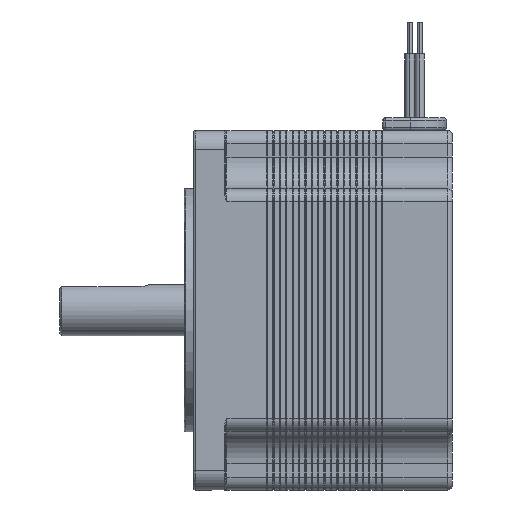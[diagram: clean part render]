
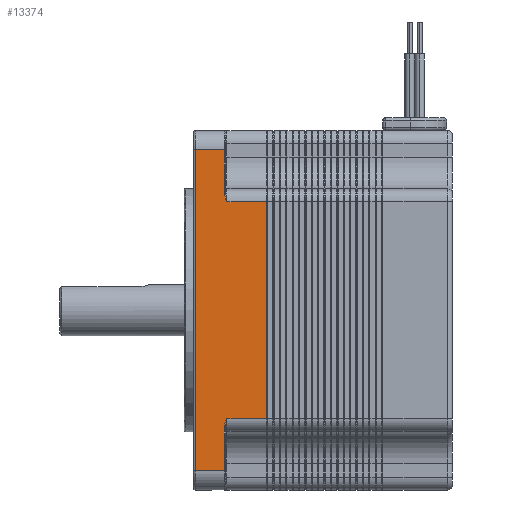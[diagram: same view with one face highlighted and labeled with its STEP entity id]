
A CAD part, left-side view. The second image highlights one B-rep face of the part: STEP entity #13374.
In plain terms, the highlighted planar face has unit normal (-1, 0, 0).
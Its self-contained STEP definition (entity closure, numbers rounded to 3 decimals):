
#496 = ORIENTED_EDGE ( 'NONE', *, *, #59170, .T. ) ;
#511 = CARTESIAN_POINT ( 'NONE',  ( -28.15, 35.7, 18.265 ) ) ;
#855 = FACE_OUTER_BOUND ( 'NONE', #26502, .T. ) ;
#2117 = ORIENTED_EDGE ( 'NONE', *, *, #24409, .T. ) ;
#2469 = CARTESIAN_POINT ( 'NONE',  ( -28.15, 35.7, -18.265 ) ) ;
#2835 = CARTESIAN_POINT ( 'NONE',  ( -28.15, 35.3, -17. ) ) ;
#2861 = VERTEX_POINT ( 'NONE', #67445 ) ;
#3851 = LINE ( 'NONE', #21652, #48586 ) ;
#3900 = CARTESIAN_POINT ( 'NONE',  ( -28.15, 35.395, -17.201 ) ) ;
#4259 = ORIENTED_EDGE ( 'NONE', *, *, #12267, .F. ) ;
#4748 = VERTEX_POINT ( 'NONE', #11617 ) ;
#6073 = VERTEX_POINT ( 'NONE', #62952 ) ;
#7288 = VECTOR ( 'NONE', #61969, 1000. ) ;
#9827 = CARTESIAN_POINT ( 'NONE',  ( -28.15, 35.7, -25.15 ) ) ;
#10031 = ORIENTED_EDGE ( 'NONE', *, *, #18332, .T. ) ;
#11617 = CARTESIAN_POINT ( 'NONE',  ( -28.15, 29.1, -17. ) ) ;
#12267 = EDGE_CURVE ( 'NONE', #24096, #16362, #69811, .T. ) ;
#12530 = ORIENTED_EDGE ( 'NONE', *, *, #41797, .T. ) ;
#12716 = VECTOR ( 'NONE', #13269, 1000. ) ;
#13269 = DIRECTION ( 'NONE',  ( 0., 1., 0. ) ) ;
#13374 = ADVANCED_FACE ( 'NONE', ( #855 ), #67429, .F. ) ;
#14471 = CARTESIAN_POINT ( 'NONE',  ( -28.15, 35.491, -17.403 ) ) ;
#15427 = CARTESIAN_POINT ( 'NONE',  ( -28.15, 35.5, -25.15 ) ) ;
#15708 = B_SPLINE_CURVE_WITH_KNOTS ( 'NONE', 3,
 ( #2469, #44215, #16432, #14471, #3900, #2835 ),
 .UNSPECIFIED., .F., .F.,
 ( 4, 2, 4 ),
 ( 0., 0.001, 0.001 ),
 .UNSPECIFIED. ) ;
#16362 = VERTEX_POINT ( 'NONE', #55471 ) ;
#16432 = CARTESIAN_POINT ( 'NONE',  ( -28.15, 35.642, -17.823 ) ) ;
#17676 = LINE ( 'NONE', #18060, #7288 ) ;
#18060 = CARTESIAN_POINT ( 'NONE',  ( -28.15, 40.5, -17. ) ) ;
#18248 = VERTEX_POINT ( 'NONE', #72026 ) ;
#18332 = EDGE_CURVE ( 'NONE', #57854, #21169, #69428, .T. ) ;
#18683 = CARTESIAN_POINT ( 'NONE',  ( -28.15, 35.7, 25.15 ) ) ;
#19141 = B_SPLINE_CURVE_WITH_KNOTS ( 'NONE', 3,
 ( #44727, #66696, #45442, #33793, #61569, #511 ),
 .UNSPECIFIED., .F., .F.,
 ( 4, 2, 4 ),
 ( 0., 0.001, 0.001 ),
 .UNSPECIFIED. ) ;
#19658 = CARTESIAN_POINT ( 'NONE',  ( -28.15, 40.5, 17. ) ) ;
#21169 = VERTEX_POINT ( 'NONE', #28056 ) ;
#21652 = CARTESIAN_POINT ( 'NONE',  ( -28.15, 29.1, -17. ) ) ;
#22713 = LINE ( 'NONE', #62617, #12716 ) ;
#23000 = CARTESIAN_POINT ( 'NONE',  ( -28.15, 35.3, 17. ) ) ;
#23869 = CARTESIAN_POINT ( 'NONE',  ( -28.15, 40.5, -17. ) ) ;
#24096 = VERTEX_POINT ( 'NONE', #23000 ) ;
#24409 = EDGE_CURVE ( 'NONE', #4748, #16362, #3851, .T. ) ;
#25298 = LINE ( 'NONE', #15427, #66486 ) ;
#26502 = EDGE_LOOP ( 'NONE', ( #12530, #10031, #68093, #62095, #37117, #37741, #2117, #4259, #496, #45224 ) ) ;
#27646 = VERTEX_POINT ( 'NONE', #18683 ) ;
#28056 = CARTESIAN_POINT ( 'NONE',  ( -28.15, 40.3, -25.15 ) ) ;
#32867 = VERTEX_POINT ( 'NONE', #9827 ) ;
#33793 = CARTESIAN_POINT ( 'NONE',  ( -28.15, 35.642, 17.823 ) ) ;
#34876 = DIRECTION ( 'NONE',  ( 0., 0., -1. ) ) ;
#35154 = VECTOR ( 'NONE', #36564, 1000. ) ;
#35988 = VECTOR ( 'NONE', #59717, 1000. ) ;
#36564 = DIRECTION ( 'NONE',  ( 0., 0., 1. ) ) ;
#37117 = ORIENTED_EDGE ( 'NONE', *, *, #48653, .T. ) ;
#37741 = ORIENTED_EDGE ( 'NONE', *, *, #54846, .T. ) ;
#41797 = EDGE_CURVE ( 'NONE', #27646, #57854, #22713, .T. ) ;
#42167 = LINE ( 'NONE', #71412, #35988 ) ;
#42519 = DIRECTION ( 'NONE',  ( 0., 1., 0. ) ) ;
#42962 = EDGE_CURVE ( 'NONE', #32867, #21169, #25298, .T. ) ;
#44215 = CARTESIAN_POINT ( 'NONE',  ( -28.15, 35.7, -18.04 ) ) ;
#44727 = CARTESIAN_POINT ( 'NONE',  ( -28.15, 35.3, 17. ) ) ;
#44813 = AXIS2_PLACEMENT_3D ( 'NONE', #23869, #68521, #34876 ) ;
#45224 = ORIENTED_EDGE ( 'NONE', *, *, #69072, .T. ) ;
#45442 = CARTESIAN_POINT ( 'NONE',  ( -28.15, 35.491, 17.403 ) ) ;
#46386 = DIRECTION ( 'NONE',  ( 0., -1., 0. ) ) ;
#47562 = VECTOR ( 'NONE', #51473, 1000. ) ;
#48586 = VECTOR ( 'NONE', #59433, 1000. ) ;
#48653 = EDGE_CURVE ( 'NONE', #18248, #6073, #15708, .T. ) ;
#51473 = DIRECTION ( 'NONE',  ( 0., 0., -1. ) ) ;
#53172 = EDGE_CURVE ( 'NONE', #32867, #18248, #63993, .T. ) ;
#54846 = EDGE_CURVE ( 'NONE', #6073, #4748, #17676, .T. ) ;
#55471 = CARTESIAN_POINT ( 'NONE',  ( -28.15, 29.1, 17. ) ) ;
#57854 = VERTEX_POINT ( 'NONE', #65365 ) ;
#58082 = CARTESIAN_POINT ( 'NONE',  ( -28.15, 40.3, -25.15 ) ) ;
#59170 = EDGE_CURVE ( 'NONE', #24096, #2861, #19141, .T. ) ;
#59433 = DIRECTION ( 'NONE',  ( 0., 0., 1. ) ) ;
#59717 = DIRECTION ( 'NONE',  ( 0., 0., 1. ) ) ;
#61569 = CARTESIAN_POINT ( 'NONE',  ( -28.15, 35.7, 18.04 ) ) ;
#61969 = DIRECTION ( 'NONE',  ( 0., -1., 0. ) ) ;
#62095 = ORIENTED_EDGE ( 'NONE', *, *, #53172, .T. ) ;
#62401 = VECTOR ( 'NONE', #46386, 1000. ) ;
#62617 = CARTESIAN_POINT ( 'NONE',  ( -28.15, 35.5, 25.15 ) ) ;
#62952 = CARTESIAN_POINT ( 'NONE',  ( -28.15, 35.3, -17. ) ) ;
#63993 = LINE ( 'NONE', #70954, #35154 ) ;
#65365 = CARTESIAN_POINT ( 'NONE',  ( -28.15, 40.3, 25.15 ) ) ;
#66486 = VECTOR ( 'NONE', #42519, 1000. ) ;
#66696 = CARTESIAN_POINT ( 'NONE',  ( -28.15, 35.395, 17.202 ) ) ;
#67429 = PLANE ( 'NONE',  #44813 ) ;
#67445 = CARTESIAN_POINT ( 'NONE',  ( -28.15, 35.7, 18.265 ) ) ;
#68093 = ORIENTED_EDGE ( 'NONE', *, *, #42962, .F. ) ;
#68521 = DIRECTION ( 'NONE',  ( 1., 0., 0. ) ) ;
#69072 = EDGE_CURVE ( 'NONE', #2861, #27646, #42167, .T. ) ;
#69428 = LINE ( 'NONE', #58082, #47562 ) ;
#69811 = LINE ( 'NONE', #19658, #62401 ) ;
#70954 = CARTESIAN_POINT ( 'NONE',  ( -28.15, 35.7, -17. ) ) ;
#71412 = CARTESIAN_POINT ( 'NONE',  ( -28.15, 35.7, -17. ) ) ;
#72026 = CARTESIAN_POINT ( 'NONE',  ( -28.15, 35.7, -18.265 ) ) ;
